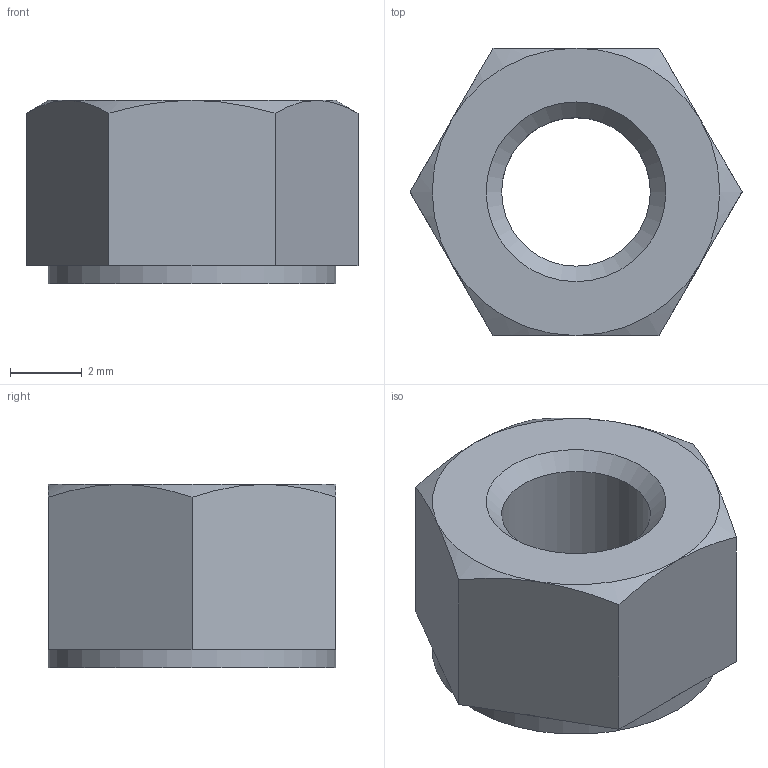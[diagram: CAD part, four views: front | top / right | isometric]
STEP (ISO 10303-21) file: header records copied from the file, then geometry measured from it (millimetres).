
FILE_DESCRIPTION(/* description */ ('STEP AP242 Edition 2','CAx-IF Rec.Pracs.---Representation and Presentation of Product Manufacturing Information (PMI)---4.0---2014-10-13','CAx-IF Rec.Pracs.---3D Tessellated Geometry---0.4---2014-09-14','2;1','CAx-IF Rec.Pracs.---User Defined Attributes---1.5---2016-08-15'),/* implementation_level */ '2;1');
FILE_NAME(/* name */ 'Assembly 1 - Hex nut grade A & B M5x0.8',/* time_stamp */ '2026-08-25T12:56:07Z',/* author */ (''),/* organization */ (''),/* preprocessor_version */ 'ST-DEVELOPER v20',/* originating_system */ 'ONSHAPE BY PTC INC, 1.219',/* authorisation */ ' ');
FILE_SCHEMA (('AP242_MANAGED_MODEL_BASED_3D_ENGINEERING_MIM_LF { 1 0 10303 442 3 1 4 }'));
Length unit declared in the file: metre
Products named in the file (1): Hex nut grade A & B M5x0.8
Bounding box: 9.24 x 8 x 5.1 mm (x, y, z)
Volume: 208.5 mm3; surface area: 281.6 mm2
Topology: 1 solids, 1 shells, 24 faces, 52 edges, 30 vertices
Faces by surface type: plane 14, cone 8, cylinder 2
Full cylindrical faces by diameter (mm): 4.134 x1, 8 x1
Entity records: 650 total; most frequent: CARTESIAN_POINT 137, DIRECTION 102, ORIENTED_EDGE 94, EDGE_CURVE 47, AXIS2_PLACEMENT_3D 42, EDGE_LOOP 30, FACE_BOUND 30, VERTEX_POINT 29
